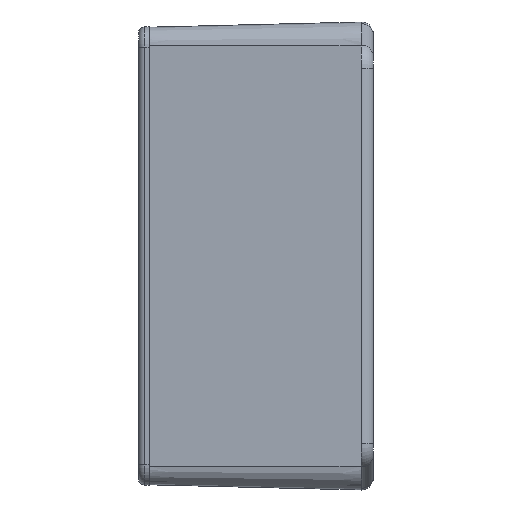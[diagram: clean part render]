
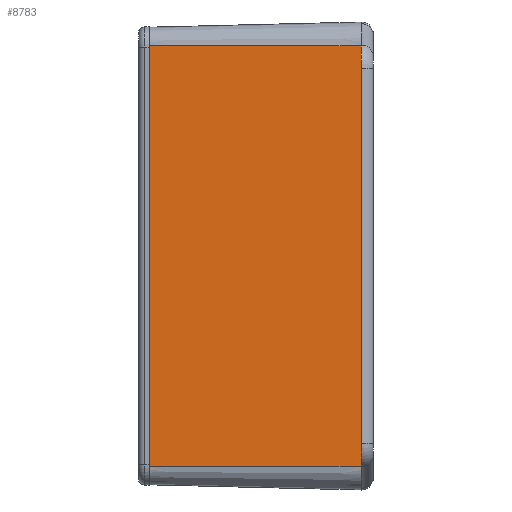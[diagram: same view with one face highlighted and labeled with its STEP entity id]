
A CAD part, left-side view. The second image highlights one B-rep face of the part: STEP entity #8783.
In plain terms, the highlighted planar face has unit normal (-1, 0.024, 0).
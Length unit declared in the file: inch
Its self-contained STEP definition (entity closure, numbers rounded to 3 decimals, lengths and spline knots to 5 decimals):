
#1852 = EDGE_CURVE ( 'NONE', #11539, #11537, #9659, .T. ) ;
#1853 = EDGE_CURVE ( 'NONE', #11535, #11539, #9665, .T. ) ;
#1859 = EDGE_CURVE ( 'NONE', #11535, #11536, #9670, .T. ) ;
#1860 = EDGE_CURVE ( 'NONE', #11536, #11537, #9675, .T. ) ;
#2710 = AXIS2_PLACEMENT_3D ( 'NONE', #3229, #3232, #3233 ) ;
#3229 = CARTESIAN_POINT ( 'NONE',  ( -2.31, 0., 2.122 ) ) ;
#3230 = PLANE ( 'NONE',  #2710 ) ;
#3232 = DIRECTION ( 'NONE',  ( -1., 0.024, 0. ) ) ;
#3233 = DIRECTION ( 'NONE',  ( -0.024, -1., 0. ) ) ;
#5037 = FACE_OUTER_BOUND ( 'NONE', #10898, .T. ) ;
#5685 = CARTESIAN_POINT ( 'NONE',  ( -2.3623, -2.14, -2.122 ) ) ;
#5686 = CARTESIAN_POINT ( 'NONE',  ( -2.31, 0., -2.122 ) ) ;
#5687 = CARTESIAN_POINT ( 'NONE',  ( -2.31, 0., 2.122 ) ) ;
#5689 = CARTESIAN_POINT ( 'NONE',  ( -2.3623, -2.14, 2.122 ) ) ;
#7099 = CARTESIAN_POINT ( 'NONE',  ( -2.3623, -2.14, 2.122 ) ) ;
#7105 = CARTESIAN_POINT ( 'NONE',  ( -2.31, 0., 2.122 ) ) ;
#7106 = DIRECTION ( 'NONE',  ( 0.024, 1., 0. ) ) ;
#7108 = DIRECTION ( 'NONE',  ( 0., 0., 1. ) ) ;
#7118 = CARTESIAN_POINT ( 'NONE',  ( -2.31, 0., 2.122 ) ) ;
#7123 = CARTESIAN_POINT ( 'NONE',  ( -2.31, 0., -2.122 ) ) ;
#7124 = DIRECTION ( 'NONE',  ( 0.024, 1., 0. ) ) ;
#7125 = DIRECTION ( 'NONE',  ( 0., 0., 1. ) ) ;
#8783 = ADVANCED_FACE ( 'NONE', ( #5037 ), #3230, .T. ) ;
#9657 = VECTOR ( 'NONE', #7106, 39.37008 ) ;
#9659 = LINE ( 'NONE', #7105, #9657 ) ;
#9665 = LINE ( 'NONE', #7099, #9667 ) ;
#9667 = VECTOR ( 'NONE', #7108, 39.37008 ) ;
#9668 = VECTOR ( 'NONE', #7124, 39.37008 ) ;
#9670 = LINE ( 'NONE', #7123, #9668 ) ;
#9675 = LINE ( 'NONE', #7118, #9677 ) ;
#9677 = VECTOR ( 'NONE', #7125, 39.37008 ) ;
#10143 = ORIENTED_EDGE ( 'NONE', *, *, #1860, .F. ) ;
#10144 = ORIENTED_EDGE ( 'NONE', *, *, #1859, .F. ) ;
#10145 = ORIENTED_EDGE ( 'NONE', *, *, #1853, .T. ) ;
#10146 = ORIENTED_EDGE ( 'NONE', *, *, #1852, .T. ) ;
#10898 = EDGE_LOOP ( 'NONE', ( #10143, #10144, #10145, #10146 ) ) ;
#11535 = VERTEX_POINT ( 'NONE', #5685 ) ;
#11536 = VERTEX_POINT ( 'NONE', #5686 ) ;
#11537 = VERTEX_POINT ( 'NONE', #5687 ) ;
#11539 = VERTEX_POINT ( 'NONE', #5689 ) ;
